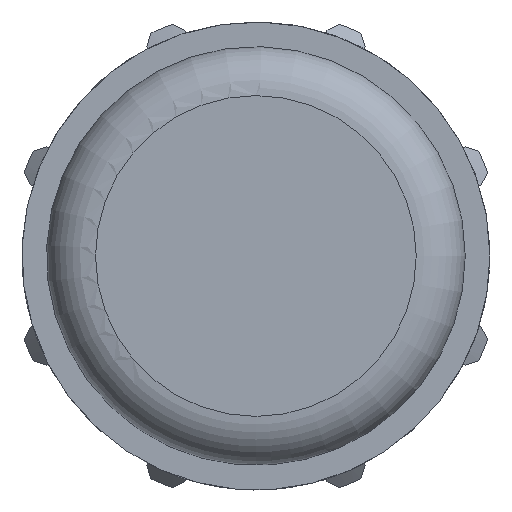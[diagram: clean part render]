
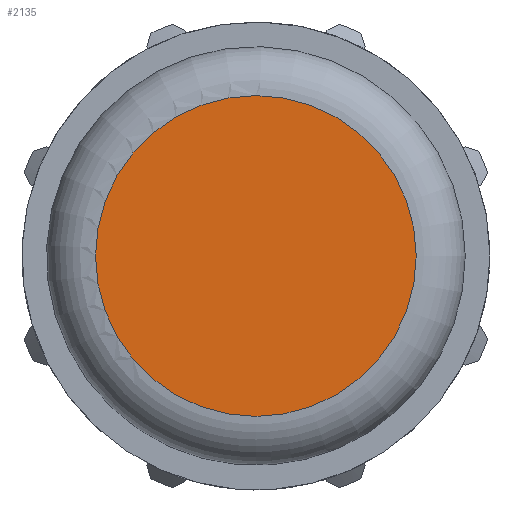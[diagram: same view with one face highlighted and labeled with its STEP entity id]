
A CAD part, left-side view. The second image highlights one B-rep face of the part: STEP entity #2135.
In plain terms, the highlighted planar face has unit normal (-1, 0, 0).
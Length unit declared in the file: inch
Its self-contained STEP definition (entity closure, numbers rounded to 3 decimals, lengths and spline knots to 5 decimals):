
#94=PLANE('',#2282);
#487=FACE_OUTER_BOUND('',#602,.T.);
#602=EDGE_LOOP('',(#1387));
#732=CIRCLE('',#2278,1.05147);
#841=VERTEX_POINT('',#3115);
#1058=EDGE_CURVE('',#841,#841,#732,.T.);
#1387=ORIENTED_EDGE('',*,*,#1058,.F.);
#2135=ADVANCED_FACE('',(#487),#94,.T.);
#2278=AXIS2_PLACEMENT_3D('',#3116,#2518,#2519);
#2282=AXIS2_PLACEMENT_3D('',#3122,#2526,#2527);
#2518=DIRECTION('center_axis',(1.,0.,0.));
#2519=DIRECTION('ref_axis',(0.,1.,0.));
#2526=DIRECTION('center_axis',(-1.,0.,0.));
#2527=DIRECTION('ref_axis',(0.,0.,1.));
#3115=CARTESIAN_POINT('',(0.,-1.05147,0.00045));
#3116=CARTESIAN_POINT('Origin',(0.,0.,0.));
#3122=CARTESIAN_POINT('Origin',(0.,1.37275,0.));
